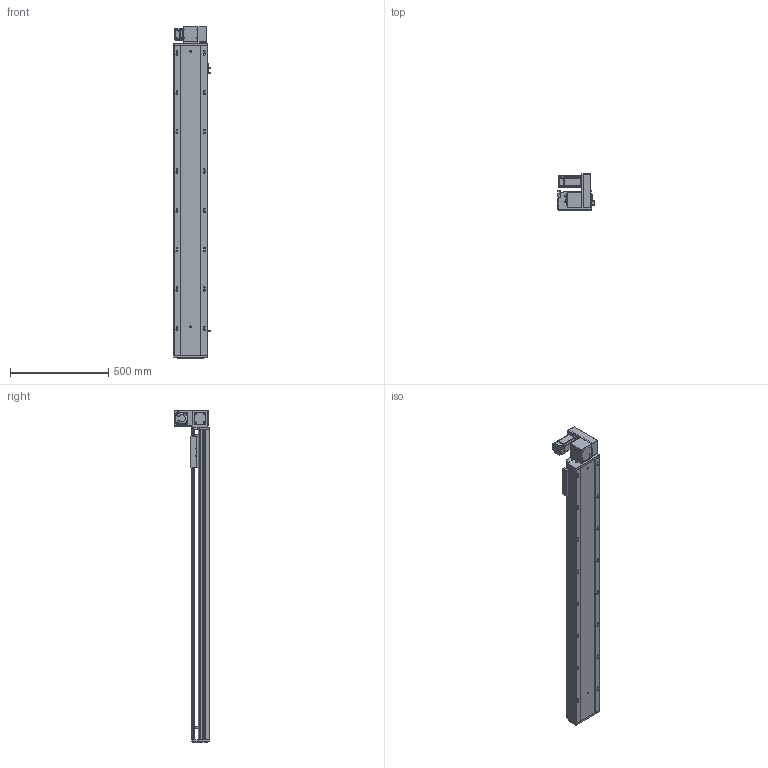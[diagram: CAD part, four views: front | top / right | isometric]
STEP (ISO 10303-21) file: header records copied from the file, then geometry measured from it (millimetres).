
FILE_DESCRIPTION (( 'STEP AP203' ), '1' );
FILE_NAME ('RY170-T-300-UR-P400W.SLDASM_1300.step', '2021-03-01T09:28:04', ( '盈信电脑' ), ( '东莞市道滘镇水果街19号' ), 'SwSTEP 2.0', 'SolidWorks 2012', '' );
FILE_SCHEMA (( 'CONFIG_CONTROL_DESIGN' ));
Length unit declared in the file: millimetre
Products named in the file (18): RY170肮祭湍臏賑輸; RY170-T-300肮祭謫倰第裔啣-DR_1300; RY170-T-300肮祭謫倰第菁釱-DR_1300; 15; RY170-T-300-UR-P400W.SLDASM_1300; 滅袉蝶18-10; RY170-T蹟翐M4; RY120-T主同步轮轴承压盖; RY170-T肮祭謫裔啣; RY170同步轮电机安装板(400W); RY170肮祭謫萇儂欶; RY170-T肮祭湍揤踡輸2; RY170-T肮祭湍揤踡輸1; RY170翋肮祭謫釱; RY170肮祭謫ヶ裔啣; RY170外置感应片(200共用）; RY170綴裔啣; 覜茼ん672
Assembly tree (22 placements, depth 2):
  RY170-T-300-UR-P400W.SLDASM_1300
    RY170-T-300肮祭謫倰第菁釱-DR_1300
    RY170肮祭湍臏賑輸
    RY170-T-300肮祭謫倰第裔啣-DR_1300
    RY170綴裔啣
    覜茼ん672  x3
    RY170外置感应片(200共用）
    RY170肮祭謫ヶ裔啣
    RY170翋肮祭謫釱
    RY170同步轮电机安装板(400W)
    RY170肮祭謫萇儂欶
    RY170-T肮祭湍揤踡輸1  x2
    RY170-T肮祭湍揤踡輸2  x2
    RY120-T主同步轮轴承压盖
    RY170-T肮祭謫裔啣
    RY170-T蹟翐M4
    滅袉蝶18-10  x2
    15
Bounding box: 183.7 x 182 x 1688 mm (x, y, z)
Volume: 8172248.6 mm3; surface area: 2786731.3 mm2
Topology: 22 solids, 22 shells, 2812 faces, 7802 edges, 4993 vertices
Faces by surface type: plane 1262, cylinder 1260, cone 260, bspline 30
Entity records: 83784 total; most frequent: CARTESIAN_POINT 18655, ORIENTED_EDGE 13264, DIRECTION 13080, EDGE_CURVE 6632, AXIS2_PLACEMENT_3D 4608, VERTEX_POINT 4349, LINE 3864, VECTOR 3864
